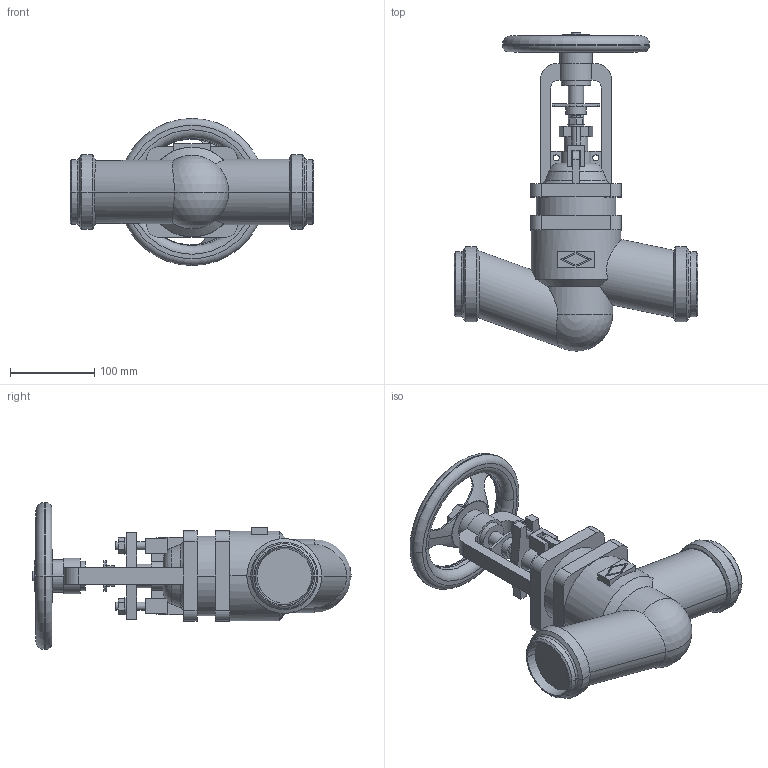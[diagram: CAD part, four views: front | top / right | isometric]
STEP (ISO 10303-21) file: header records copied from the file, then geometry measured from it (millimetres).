
FILE_DESCRIPTION(('OneSpaceDesigner STEP Export'),'2;1');
FILE_NAME('c000004326.stp','2010-05-06T10:47:17',(''),(''),'OneSpace Designer STEP processor for AP214 (Solid Model)','OneSpace Modeling 15.50B 03-Nov-2007 (C) CoCreate Software GmbH','');
FILE_SCHEMA(('AUTOMOTIVE_DESIGN { 1 0 10303 214 1 1 1 1 }'));
Length unit declared in the file: millimetre
Products named in the file (1): 1
Bounding box: 290 x 378.59 x 175 mm (x, y, z)
Volume: 2988058.5 mm3; surface area: 252012.1 mm2
Topology: 1 solids, 1 shells, 285 faces, 762 edges, 495 vertices
Faces by surface type: plane 136, cylinder 93, cone 28, torus 26, sphere 2
Entity records: 11844 total; most frequent: CARTESIAN_POINT 2801, ORIENTED_EDGE 1520, DIRECTION 1248, EDGE_CURVE 760, VERTEX_POINT 495, AXIS2_PLACEMENT_3D 426, VECTOR 396, LINE 396
